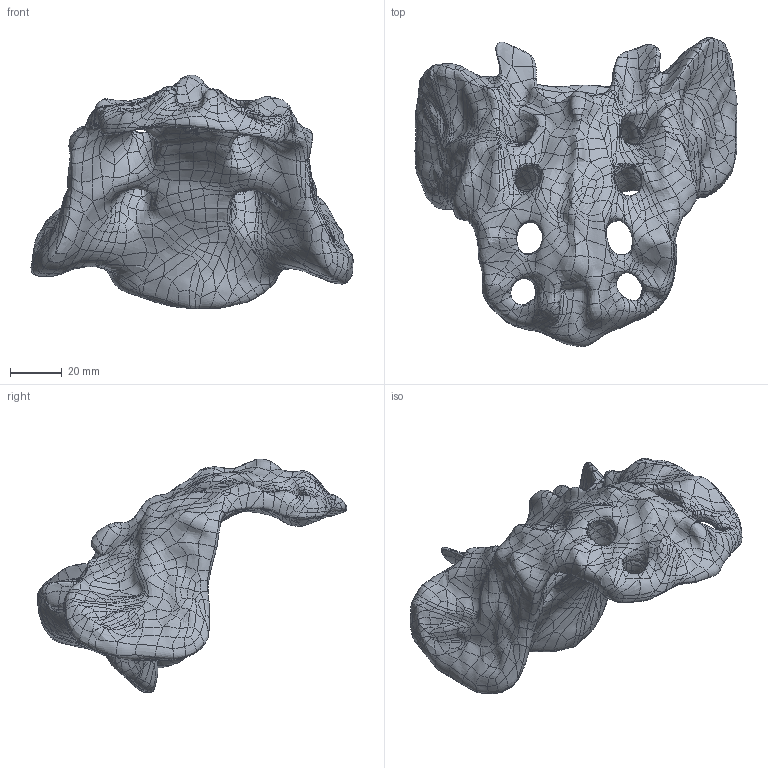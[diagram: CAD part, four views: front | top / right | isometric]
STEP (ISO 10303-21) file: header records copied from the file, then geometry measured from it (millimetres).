
FILE_DESCRIPTION (( 'STEP AP203' ), '1' );
FILE_NAME ('1299.STEP', '2026-08-04T18:14:17', ( '' ), ( '' ), 'SwSTEP 2.0', 'SolidWorks 2024', '' );
FILE_SCHEMA (( 'CONFIG_CONTROL_DESIGN' ));
Products named in the file (1): 1299
Bounding box: 124.48 x 119.61 x 90.4 mm (x, y, z)
Volume: 206235.3 mm3; surface area: 37808.4 mm2
Topology: 1 solids, 1 shells, 2923 faces, 6037 edges, 3101 vertices
Faces by surface type: bspline 2920, plane 3
Entity records: 855802 total; most frequent: CARTESIAN_POINT 816766, ORIENTED_EDGE 12074, B_SPLINE_CURVE_WITH_KNOTS 6037, EDGE_CURVE 6037, VERTEX_POINT 3101, EDGE_LOOP 2924, FACE_OUTER_BOUND 2923, ADVANCED_FACE 2923
